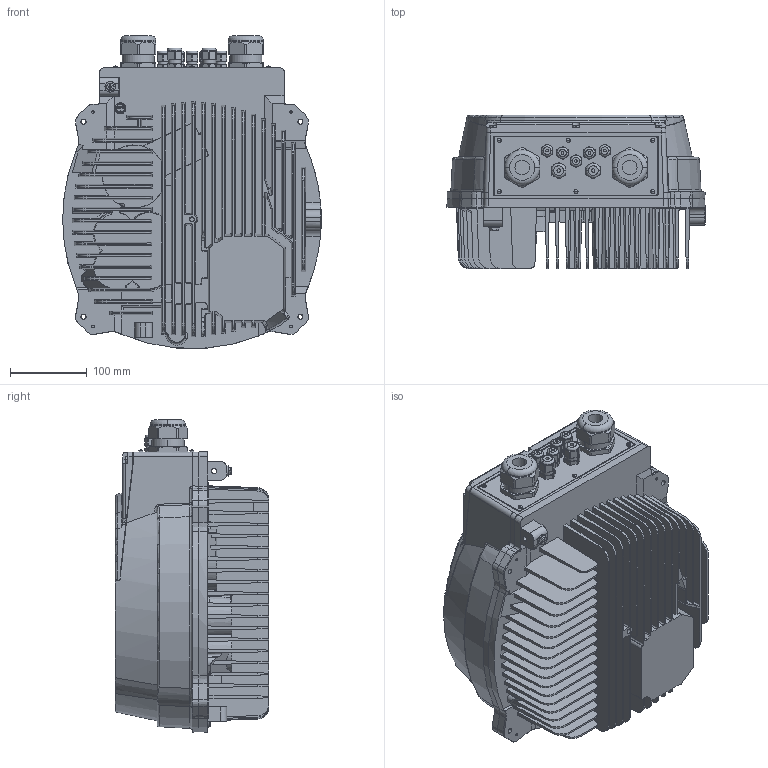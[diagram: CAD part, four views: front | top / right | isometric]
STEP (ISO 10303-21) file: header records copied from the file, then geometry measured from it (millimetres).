
FILE_DESCRIPTION((''),'2;1');
FILE_NAME('HVLC_075-220','2016-02-01T',('lcasarot'),('Xylem Service Italia srl'),'CREO PARAMETRIC BY PTC INC, 2015200','CREO PARAMETRIC BY PTC INC, 2015200','');
FILE_SCHEMA(('CONFIG_CONTROL_DESIGN'));
Length unit declared in the file: millimetre
Products named in the file (1): HVLC_075-220
Bounding box: 336.86 x 200.1 x 406.86 mm (x, y, z)
Volume: 176014.2 mm3; surface area: 1172652.9 mm2
Topology: 8 solids, 11 shells, 2044 faces, 5436 edges, 3558 vertices
Faces by surface type: plane 868, cylinder 518, cone 343, torus 139, bspline 112, extrusion 49, sphere 15
Entity records: 87203 total; most frequent: CARTESIAN_POINT 25714, ORIENTED_EDGE 10866, DIRECTION 9425, EDGE_CURVE 5433, VERTEX_POINT 3558, AXIS2_PLACEMENT_3D 3350, VECTOR 2725, LINE 2676
